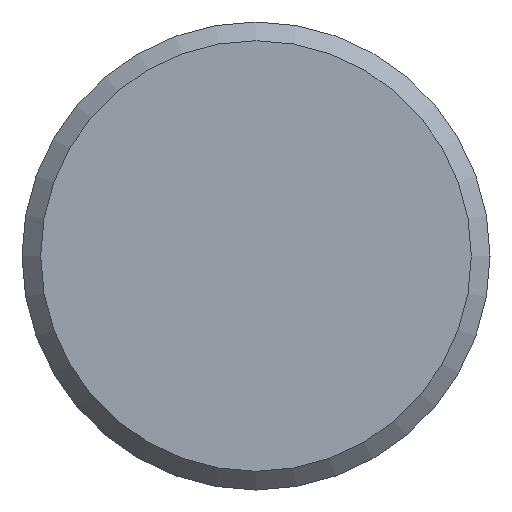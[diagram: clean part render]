
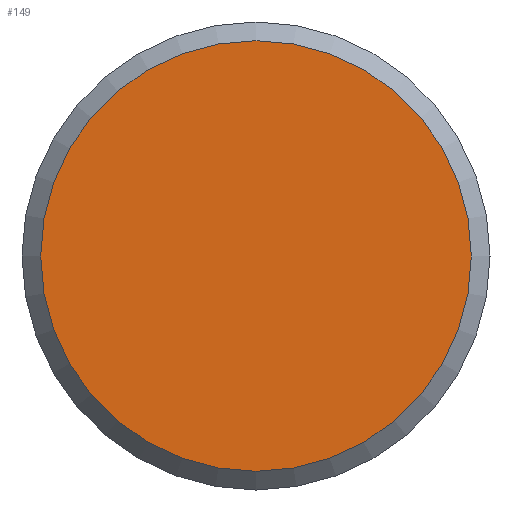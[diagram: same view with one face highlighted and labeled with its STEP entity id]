
A CAD part, left-side view. The second image highlights one B-rep face of the part: STEP entity #149.
In plain terms, the highlighted planar face has unit normal (-1, 0, 0).
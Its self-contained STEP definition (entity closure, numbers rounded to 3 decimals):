
#18=PLANE('',#190);
#28=FACE_OUTER_BOUND('',#38,.T.);
#38=EDGE_LOOP('',(#123));
#61=CIRCLE('',#189,13.8);
#74=VERTEX_POINT('',#278);
#91=EDGE_CURVE('',#74,#74,#61,.T.);
#123=ORIENTED_EDGE('',*,*,#91,.F.);
#149=ADVANCED_FACE('',(#28),#18,.T.);
#189=AXIS2_PLACEMENT_3D('',#280,#236,#237);
#190=AXIS2_PLACEMENT_3D('',#281,#238,#239);
#236=DIRECTION('center_axis',(1.,0.,0.));
#237=DIRECTION('ref_axis',(0.,-1.,0.));
#238=DIRECTION('center_axis',(-1.,0.,0.));
#239=DIRECTION('ref_axis',(0.,0.,1.));
#278=CARTESIAN_POINT('',(0.,13.8,0.));
#280=CARTESIAN_POINT('Origin',(0.,0.,0.));
#281=CARTESIAN_POINT('Origin',(0.,15.,0.));
